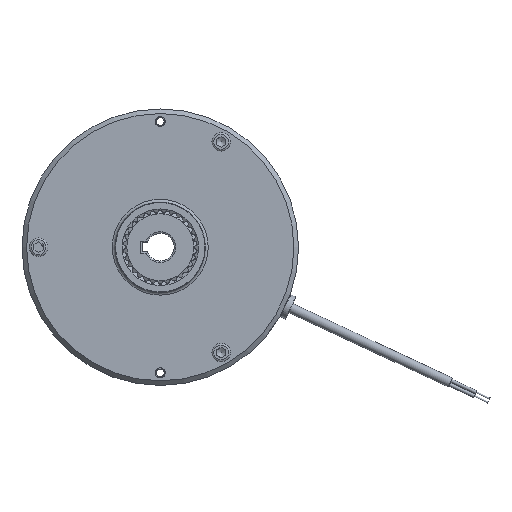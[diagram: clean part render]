
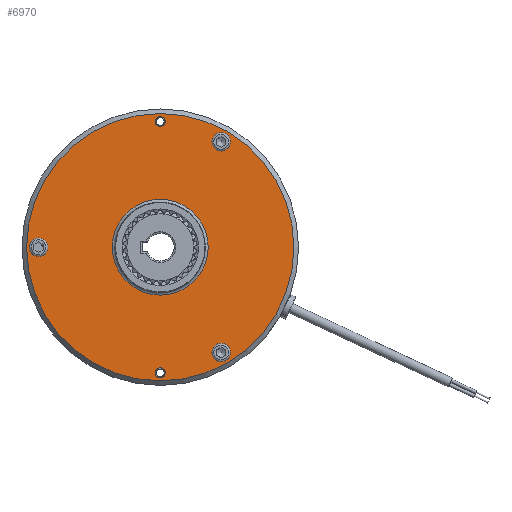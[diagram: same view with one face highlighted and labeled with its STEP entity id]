
A CAD part, left-side view. The second image highlights one B-rep face of the part: STEP entity #6970.
In plain terms, the highlighted planar face has unit normal (-1, 0, 0).
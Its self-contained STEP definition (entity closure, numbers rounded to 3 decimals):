
#586=FACE_BOUND('',#1623,.T.);
#587=FACE_BOUND('',#1624,.T.);
#588=FACE_BOUND('',#1625,.T.);
#589=FACE_BOUND('',#1626,.T.);
#590=FACE_BOUND('',#1627,.T.);
#591=FACE_BOUND('',#1628,.T.);
#771=CIRCLE('',#7440,5.);
#772=CIRCLE('',#7441,5.);
#789=CIRCLE('',#7474,5.);
#790=CIRCLE('',#7475,5.);
#815=CIRCLE('',#7528,5.);
#816=CIRCLE('',#7529,5.);
#834=CIRCLE('',#7563,2.7);
#835=CIRCLE('',#7564,2.7);
#837=CIRCLE('',#7567,2.7);
#838=CIRCLE('',#7568,2.7);
#840=CIRCLE('',#7571,72.5);
#841=CIRCLE('',#7573,26.);
#1240=FACE_OUTER_BOUND('',#1622,.T.);
#1622=EDGE_LOOP('',(#5399));
#1623=EDGE_LOOP('',(#5400,#5401));
#1624=EDGE_LOOP('',(#5402,#5403));
#1625=EDGE_LOOP('',(#5404,#5405));
#1626=EDGE_LOOP('',(#5406,#5407));
#1627=EDGE_LOOP('',(#5408,#5409));
#1628=EDGE_LOOP('',(#5410));
#2830=VERTEX_POINT('',#11037);
#2831=VERTEX_POINT('',#11038);
#2861=VERTEX_POINT('',#11140);
#2862=VERTEX_POINT('',#11141);
#2905=VERTEX_POINT('',#11391);
#2906=VERTEX_POINT('',#11392);
#2930=VERTEX_POINT('',#11486);
#2931=VERTEX_POINT('',#11487);
#2933=VERTEX_POINT('',#11494);
#2934=VERTEX_POINT('',#11495);
#2936=VERTEX_POINT('',#11502);
#2937=VERTEX_POINT('',#11506);
#3666=EDGE_CURVE('',#2830,#2831,#771,.T.);
#3667=EDGE_CURVE('',#2831,#2830,#772,.T.);
#3708=EDGE_CURVE('',#2861,#2862,#789,.T.);
#3709=EDGE_CURVE('',#2862,#2861,#790,.T.);
#3770=EDGE_CURVE('',#2905,#2906,#815,.T.);
#3771=EDGE_CURVE('',#2906,#2905,#816,.T.);
#3810=EDGE_CURVE('',#2930,#2931,#834,.T.);
#3811=EDGE_CURVE('',#2931,#2930,#835,.T.);
#3814=EDGE_CURVE('',#2933,#2934,#837,.T.);
#3815=EDGE_CURVE('',#2934,#2933,#838,.T.);
#3819=EDGE_CURVE('',#2936,#2936,#840,.T.);
#3820=EDGE_CURVE('',#2937,#2937,#841,.T.);
#5399=ORIENTED_EDGE('',*,*,#3819,.F.);
#5400=ORIENTED_EDGE('',*,*,#3666,.T.);
#5401=ORIENTED_EDGE('',*,*,#3667,.T.);
#5402=ORIENTED_EDGE('',*,*,#3708,.T.);
#5403=ORIENTED_EDGE('',*,*,#3709,.T.);
#5404=ORIENTED_EDGE('',*,*,#3770,.T.);
#5405=ORIENTED_EDGE('',*,*,#3771,.T.);
#5406=ORIENTED_EDGE('',*,*,#3810,.T.);
#5407=ORIENTED_EDGE('',*,*,#3811,.T.);
#5408=ORIENTED_EDGE('',*,*,#3814,.T.);
#5409=ORIENTED_EDGE('',*,*,#3815,.T.);
#5410=ORIENTED_EDGE('',*,*,#3820,.T.);
#6387=PLANE('',#7572);
#6970=ADVANCED_FACE('',(#1240,#586,#587,#588,#589,#590,#591),#6387,.T.);
#7440=AXIS2_PLACEMENT_3D('',#11039,#8656,#8657);
#7441=AXIS2_PLACEMENT_3D('',#11040,#8658,#8659);
#7474=AXIS2_PLACEMENT_3D('',#11142,#8741,#8742);
#7475=AXIS2_PLACEMENT_3D('',#11143,#8743,#8744);
#7528=AXIS2_PLACEMENT_3D('',#11393,#8872,#8873);
#7529=AXIS2_PLACEMENT_3D('',#11394,#8874,#8875);
#7563=AXIS2_PLACEMENT_3D('',#11488,#8956,#8957);
#7564=AXIS2_PLACEMENT_3D('',#11489,#8958,#8959);
#7567=AXIS2_PLACEMENT_3D('',#11496,#8965,#8966);
#7568=AXIS2_PLACEMENT_3D('',#11497,#8967,#8968);
#7571=AXIS2_PLACEMENT_3D('',#11504,#8975,#8976);
#7572=AXIS2_PLACEMENT_3D('',#11505,#8977,#8978);
#7573=AXIS2_PLACEMENT_3D('',#11507,#8979,#8980);
#8656=DIRECTION('center_axis',(1.,0.,0.));
#8657=DIRECTION('ref_axis',(0.,-0.5,0.866));
#8658=DIRECTION('center_axis',(1.,0.,0.));
#8659=DIRECTION('ref_axis',(0.,-0.5,0.866));
#8741=DIRECTION('center_axis',(1.,0.,0.));
#8742=DIRECTION('ref_axis',(0.,-0.5,-0.866));
#8743=DIRECTION('center_axis',(1.,0.,0.));
#8744=DIRECTION('ref_axis',(0.,-0.5,-0.866));
#8872=DIRECTION('center_axis',(1.,0.,0.));
#8873=DIRECTION('ref_axis',(0.,1.,0.));
#8874=DIRECTION('center_axis',(1.,0.,0.));
#8875=DIRECTION('ref_axis',(0.,1.,0.));
#8956=DIRECTION('center_axis',(1.,0.,0.));
#8957=DIRECTION('ref_axis',(0.,0.,1.));
#8958=DIRECTION('center_axis',(1.,0.,0.));
#8959=DIRECTION('ref_axis',(0.,0.,1.));
#8965=DIRECTION('center_axis',(1.,0.,0.));
#8966=DIRECTION('ref_axis',(0.,0.,1.));
#8967=DIRECTION('center_axis',(1.,0.,0.));
#8968=DIRECTION('ref_axis',(0.,0.,1.));
#8975=DIRECTION('center_axis',(1.,0.,0.));
#8976=DIRECTION('ref_axis',(0.,-1.,0.));
#8977=DIRECTION('center_axis',(-1.,0.,0.));
#8978=DIRECTION('ref_axis',(0.,0.,1.));
#8979=DIRECTION('center_axis',(1.,0.,0.));
#8980=DIRECTION('ref_axis',(0.,0.,1.));
#11037=CARTESIAN_POINT('',(-37.1,-35.5,61.488));
#11038=CARTESIAN_POINT('',(-37.1,-30.5,52.828));
#11039=CARTESIAN_POINT('Origin',(-37.1,-33.,57.158));
#11040=CARTESIAN_POINT('Origin',(-37.1,-33.,57.158));
#11140=CARTESIAN_POINT('',(-37.1,-35.5,-61.488));
#11141=CARTESIAN_POINT('',(-37.1,-30.5,-52.828));
#11142=CARTESIAN_POINT('Origin',(-37.1,-33.,-57.158));
#11143=CARTESIAN_POINT('Origin',(-37.1,-33.,-57.158));
#11391=CARTESIAN_POINT('',(-37.1,71.,0.));
#11392=CARTESIAN_POINT('',(-37.1,61.,0.));
#11393=CARTESIAN_POINT('Origin',(-37.1,66.,0.));
#11394=CARTESIAN_POINT('Origin',(-37.1,66.,0.));
#11486=CARTESIAN_POINT('',(-37.1,0.,-65.45));
#11487=CARTESIAN_POINT('',(-37.1,0.,-70.85));
#11488=CARTESIAN_POINT('Origin',(-37.1,0.,-68.15));
#11489=CARTESIAN_POINT('Origin',(-37.1,0.,-68.15));
#11494=CARTESIAN_POINT('',(-37.1,0.,70.85));
#11495=CARTESIAN_POINT('',(-37.1,0.,65.45));
#11496=CARTESIAN_POINT('Origin',(-37.1,0.,68.15));
#11497=CARTESIAN_POINT('Origin',(-37.1,0.,68.15));
#11502=CARTESIAN_POINT('',(-37.1,72.5,0.));
#11504=CARTESIAN_POINT('Origin',(-37.1,0.,0.));
#11505=CARTESIAN_POINT('Origin',(-37.1,37.5,0.));
#11506=CARTESIAN_POINT('',(-37.1,0.,-26.));
#11507=CARTESIAN_POINT('Origin',(-37.1,0.,0.));
